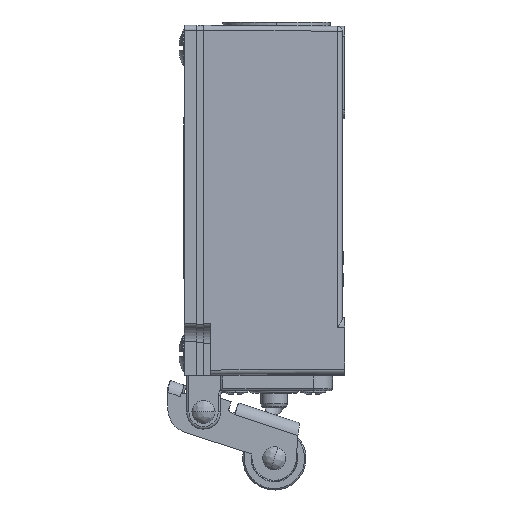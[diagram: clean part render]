
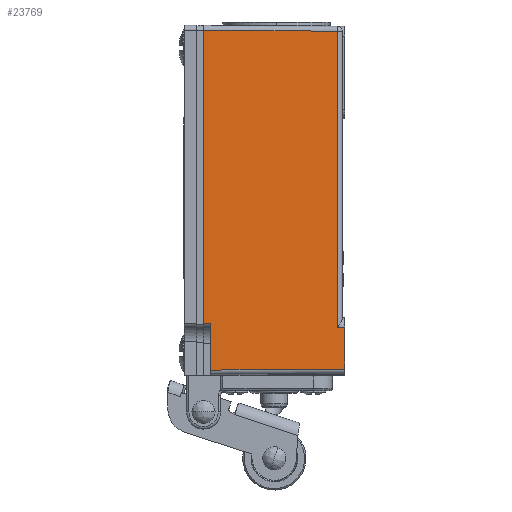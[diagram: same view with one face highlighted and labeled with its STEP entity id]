
A CAD part, left-side view. The second image highlights one B-rep face of the part: STEP entity #23769.
In plain terms, the highlighted planar face has unit normal (-1, -0.007, 0).
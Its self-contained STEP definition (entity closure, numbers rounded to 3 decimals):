
#4446=DIRECTION('',(0.,0.,-1.));
#4447=VECTOR('',#4446,60.3);
#4448=CARTESIAN_POINT('',(-18.,14.5,71.));
#4449=LINE('',#4448,#4447);
#4611=DIRECTION('',(-0.007,1.,0.007));
#4612=VECTOR('',#4611,27.508);
#4613=CARTESIAN_POINT('',(-17.81,-13.007,
70.81));
#4614=LINE('',#4613,#4612);
#4618=CARTESIAN_POINT('',(-18.,14.5,71.));
#4870=DIRECTION('',(0.,0.,-1.));
#4871=VECTOR('',#4870,60.81);
#4872=CARTESIAN_POINT('',(-17.81,-13.007,
70.81));
#4873=LINE('',#4872,#4871);
#4916=DIRECTION('',(0.,0.,-1.));
#4917=VECTOR('',#4916,8.6);
#4918=CARTESIAN_POINT('',(-17.8,-14.5,10.));
#4919=LINE('',#4918,#4917);
#4923=DIRECTION('',(0.,0.,-1.));
#4924=VECTOR('',#4923,9.49);
#4925=CARTESIAN_POINT('',(-17.99,13.,10.7));
#4926=LINE('',#4925,#4924);
#4930=DIRECTION('',(0.007,-1.,0.));
#4931=VECTOR('',#4930,1.5);
#4932=CARTESIAN_POINT('',(-18.,14.5,10.7));
#4933=LINE('',#4932,#4931);
#4937=DIRECTION('',(-0.007,1.,0.));
#4938=VECTOR('',#4937,1.493);
#4939=CARTESIAN_POINT('',(-17.8,-14.5,10.));
#4940=LINE('',#4939,#4938);
#4970=CARTESIAN_POINT('',(-17.8,-14.5,10.));
#5391=DIRECTION('',(0.007,-1.,0.007));
#5392=VECTOR('',#5391,27.501);
#5393=CARTESIAN_POINT('',(-17.99,13.,1.21));
#5394=LINE('',#5393,#5392);
#18470=VERTEX_POINT('',#4970);
#18475=CARTESIAN_POINT('',(-18.,14.5,10.7));
#18476=CARTESIAN_POINT('',(-17.99,13.,10.7));
#18477=VERTEX_POINT('',#18475);
#18478=VERTEX_POINT('',#18476);
#18527=VERTEX_POINT('',#4618);
#18537=CARTESIAN_POINT('',(-17.8,-14.5,1.4));
#18538=VERTEX_POINT('',#18537);
#18539=CARTESIAN_POINT('',(-17.99,13.,1.21));
#18540=VERTEX_POINT('',#18539);
#18557=CARTESIAN_POINT('',(-17.81,-13.007,
70.81));
#18558=CARTESIAN_POINT('',(-17.81,-13.007,10.));
#18559=VERTEX_POINT('',#18557);
#18560=VERTEX_POINT('',#18558);
#23749=CARTESIAN_POINT('',(-17.8,-14.5,0.));
#23750=DIRECTION('',(-1.,-0.007,0.));
#23751=DIRECTION('',(-0.007,1.,0.));
#23752=AXIS2_PLACEMENT_3D('',#23749,#23750,#23751);
#23753=PLANE('',#23752);
#23754=ORIENTED_EDGE('',*,*,#23733,.T.);
#23756=ORIENTED_EDGE('',*,*,#23755,.F.);
#23758=ORIENTED_EDGE('',*,*,#23757,.T.);
#23760=ORIENTED_EDGE('',*,*,#23759,.F.);
#23762=ORIENTED_EDGE('',*,*,#23761,.F.);
#23764=ORIENTED_EDGE('',*,*,#23763,.F.);
#23765=ORIENTED_EDGE('',*,*,#23276,.F.);
#23766=ORIENTED_EDGE('',*,*,#23454,.F.);
#23767=EDGE_LOOP('',(#23754,#23756,#23758,#23760,#23762,#23764,#23765,#23766));
#23768=FACE_OUTER_BOUND('',#23767,.F.);
#23276=EDGE_CURVE('',#18527,#18477,#4449,.T.);
#23454=EDGE_CURVE('',#18559,#18527,#4614,.T.);
#23733=EDGE_CURVE('',#18559,#18560,#4873,.T.);
#23755=EDGE_CURVE('',#18470,#18560,#4940,.T.);
#23757=EDGE_CURVE('',#18470,#18538,#4919,.T.);
#23759=EDGE_CURVE('',#18540,#18538,#5394,.T.);
#23761=EDGE_CURVE('',#18478,#18540,#4926,.T.);
#23763=EDGE_CURVE('',#18477,#18478,#4933,.T.);
#23769=ADVANCED_FACE('',(#23768),#23753,.T.);
